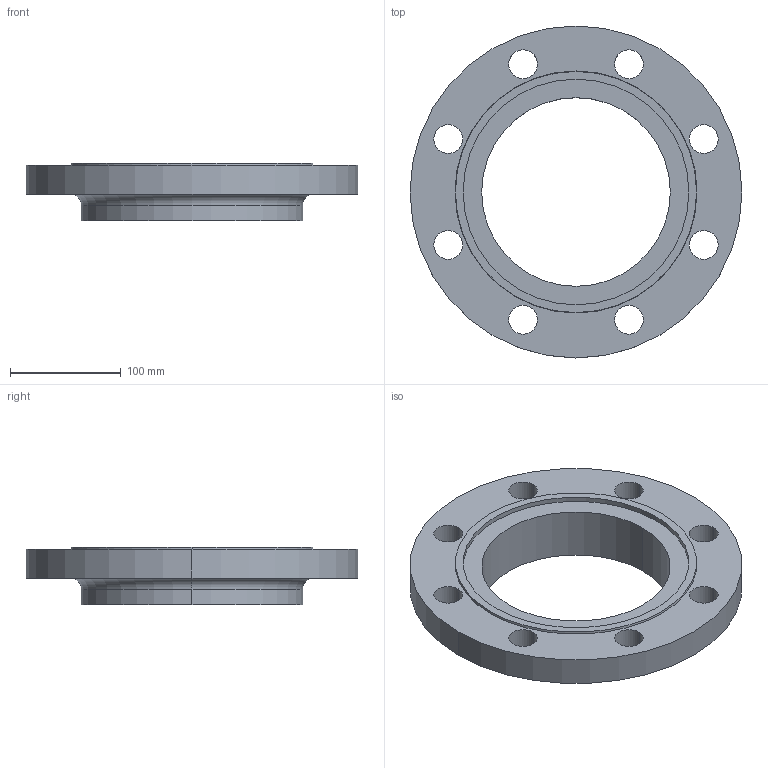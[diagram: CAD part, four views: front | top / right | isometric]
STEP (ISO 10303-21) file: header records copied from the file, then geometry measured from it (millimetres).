
FILE_DESCRIPTION (( 'STEP AP214' ), '1' );
FILE_NAME ('PN40 DN150 Type 12 - Type F Face.STEP', '2019-01-04T21:59:16', ( '' ), ( '' ), 'SwSTEP 2.0', 'SolidWorks 2019', '' );
FILE_SCHEMA (( 'AUTOMOTIVE_DESIGN' ));
Length unit declared in the file: millimetre
Products named in the file (1): PN40 DN150 Type 12 - Type F Face
Bounding box: 300 x 300 x 52 mm (x, y, z)
Volume: 1338468.2 mm3; surface area: 170613 mm2
Topology: 1 solids, 1 shells, 33 faces, 82 edges, 54 vertices
Faces by surface type: cylinder 24, plane 5, torus 2, cone 2
Entity records: 1086 total; most frequent: DIRECTION 206, CARTESIAN_POINT 170, ORIENTED_EDGE 164, AXIS2_PLACEMENT_3D 90, EDGE_CURVE 82, CIRCLE 56, VERTEX_POINT 54, EDGE_LOOP 54
